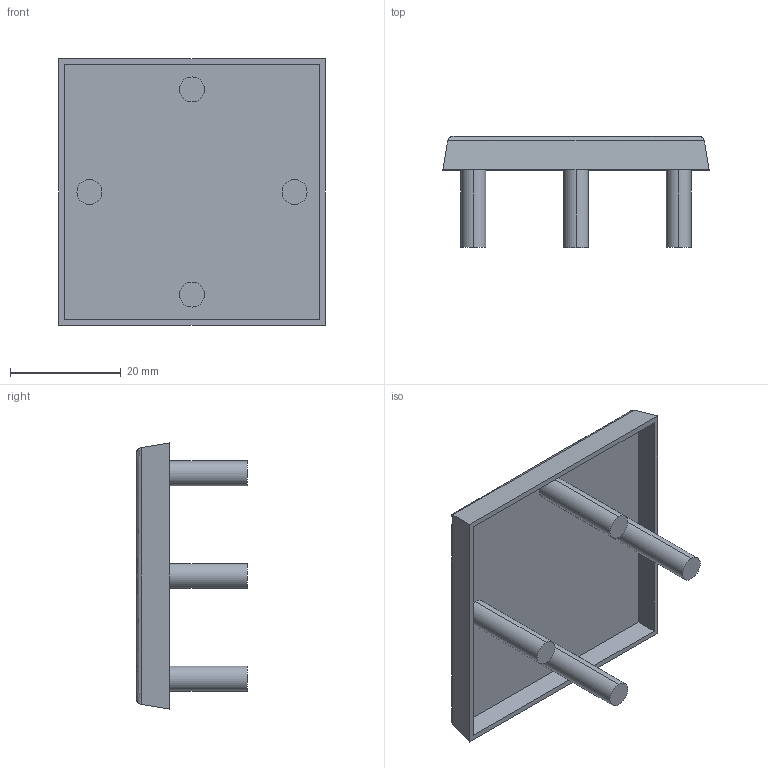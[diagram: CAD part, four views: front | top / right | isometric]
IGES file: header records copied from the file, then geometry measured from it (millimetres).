
Start section:  PTC IGES file: 48x48_adapter_igesfile.igs
Global section: file name: 48x48_adapter_igesfile.igs; native system: Pro/ENGINEER by Parametric Technology Corporation; preprocessor: 2010180; author: chrisloe; organization: Unknown; date: 20120404.162102; units: millimetre
Bounding box: 48 x 20 x 48 mm (x, y, z)
Volume: 5910.7 mm3; surface area: 7263.9 mm2
Topology: 1 solids, 1 shells, 27 faces, 56 edges, 36 vertices
Faces by surface type: bspline 15, revolution 12
